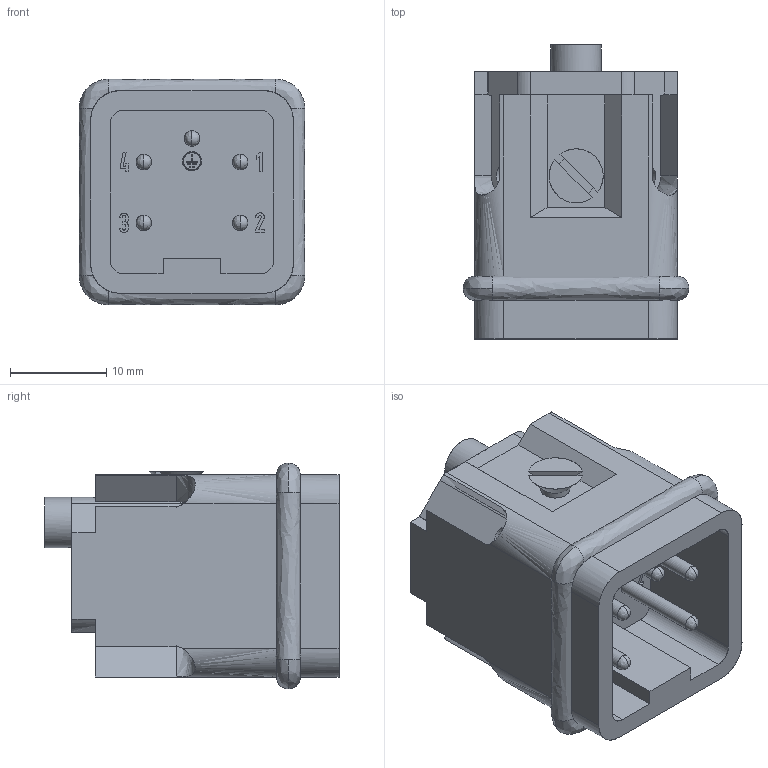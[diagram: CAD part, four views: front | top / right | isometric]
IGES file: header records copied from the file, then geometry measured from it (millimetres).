
Start section: VISI Layer Mapping Iges    VISI  0      LAYER0  1      WARNINGS
Global section: file name: G:\Produktkommunikation\Support\CD-Online-Katalog\3D Daten Produkte\E2702\E2702_4A.igs; native system: VISI 20.0; preprocessor: 2.0; author: nus; organization: Unknown; date: 20130402.120917; units: millimetre
Bounding box: 23.4 x 30.5 x 23.4 mm (x, y, z)
Surface area: 5095.9 mm2 (no closed solid volume)
Topology: 0 solids, 0 shells, 298 faces, 2446 edges, 2397 vertices
Faces by surface type: bspline 298
